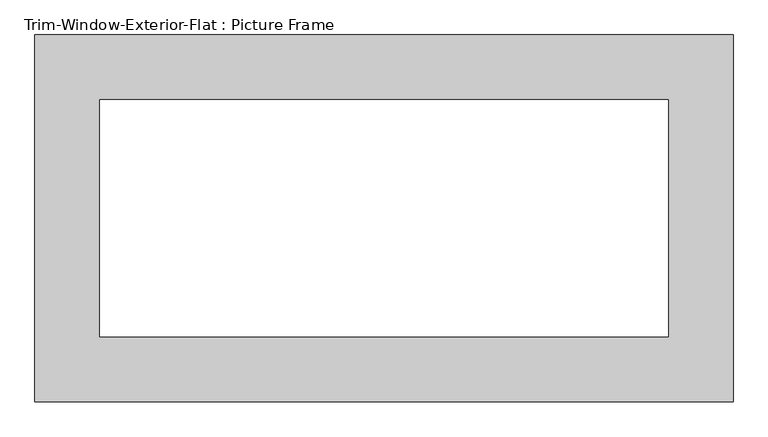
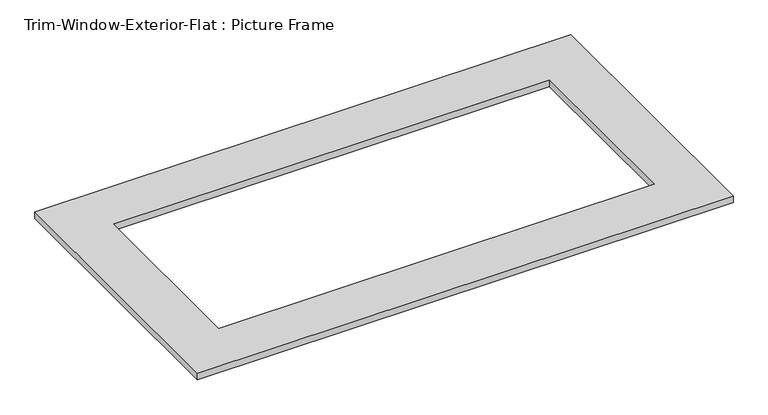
"""IFC4 building model written with IfcOpenShell, lengths in millimetres: proxy geometry, Trim-Window-Exterior-Flat : Picture Frame."""

from ifc_helpers import new_model, si_unit, origin, origin_with_axes, place, context, project, spatial, polyline, outline, extrude, source, transform, mapped, element, save


def trim_window_exterior_flat_picture_frame_5406b41e(model_context):
    return source(origin(), model_context, "Body", "SweptSolid", [
        extrude(outline(polyline([(749.3, 139.7), (749.3, -647.7), (-749.3, -647.7), (-749.3, 139.7), (749.3, 139.7)]), holes=[polyline([(609.6, 0.0), (-609.6, 0.0), (-609.6, -508.0), (609.6, -508.0), (609.6, 0.0)])]), origin_with_axes(), (0.0, 0.0, 1.0), 19.05),
    ])


if __name__ == "__main__":
    model = new_model("IFC4")
    model_context = context("Model", 3, world=origin())
    ifc_project = project(units=[si_unit("LENGTHUNIT", "METRE", prefix="MILLI")], contexts=[model_context])
    site = spatial("IfcSite", under=ifc_project)
    building = spatial("IfcBuilding", under=site)
    placement = place(None, origin())
    trim_window_exterior_flat_picture_frame_shape = trim_window_exterior_flat_picture_frame_5406b41e(model_context)
    element("IfcBuildingElementProxy", 1, Name="Trim-Window-Exterior-Flat : Picture Frame", ObjectType="Trim-Window-Exterior-Flat : Picture Frame", at=placement, inside=building, context=model_context, shape_type="MappedRepresentation", body=[
        mapped(trim_window_exterior_flat_picture_frame_shape, transform((0.0, 0.0, 0.0), x_axis=(1.0, 0.0, 0.0), y_axis=(0.0, 1.0, 0.0), z_axis=(0.0, 0.0, 1.0))),
    ])
    save(model, "model.ifc")
